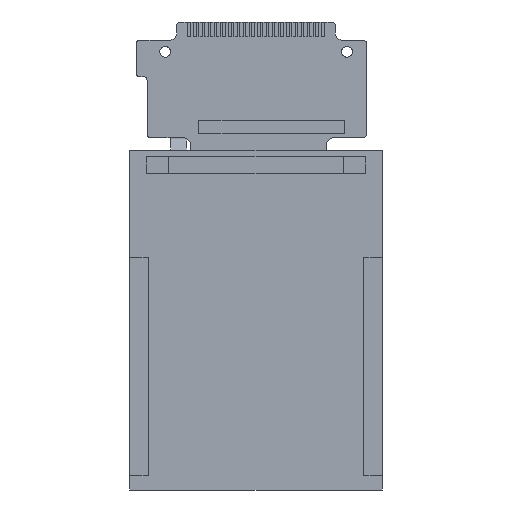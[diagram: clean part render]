
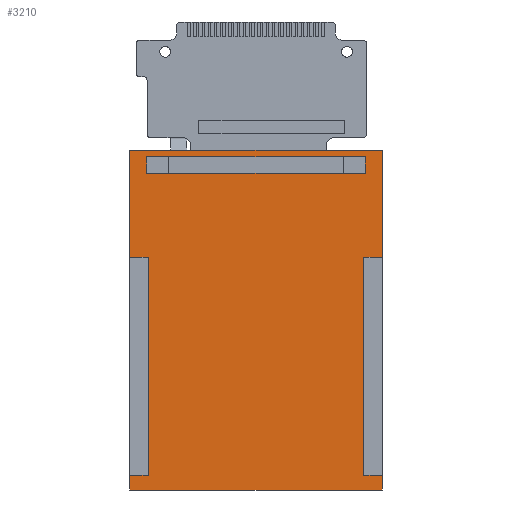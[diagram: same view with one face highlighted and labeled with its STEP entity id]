
A CAD part, front view. The second image highlights one B-rep face of the part: STEP entity #3210.
In plain terms, the highlighted planar face has unit normal (0, -1, 0).
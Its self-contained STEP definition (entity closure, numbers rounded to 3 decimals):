
#118 = CARTESIAN_POINT ( 'NONE',  ( 2.33, 0.004, -1.16 ) ) ;
#189 = VERTEX_POINT ( 'NONE', #6164 ) ;
#196 = ORIENTED_EDGE ( 'NONE', *, *, #10926, .T. ) ;
#221 = EDGE_CURVE ( 'NONE', #5218, #9421, #3654, .T. ) ;
#325 = CARTESIAN_POINT ( 'NONE',  ( 34.7, 0.004, -45.01 ) ) ;
#372 = ORIENTED_EDGE ( 'NONE', *, *, #9191, .F. ) ;
#414 = CARTESIAN_POINT ( 'NONE',  ( 34.7, 0.004, -47.01 ) ) ;
#440 = EDGE_LOOP ( 'NONE', ( #574, #6871, #5057, #3123, #196, #1449, #4499, #5184, #1272, #4087, #1174, #1010 ) ) ;
#571 = DIRECTION ( 'NONE',  ( 1., 0., 0. ) ) ;
#574 = ORIENTED_EDGE ( 'NONE', *, *, #6836, .F. ) ;
#637 = CARTESIAN_POINT ( 'NONE',  ( 2.5, 0.004, -15.01 ) ) ;
#700 = EDGE_CURVE ( 'NONE', #10422, #3099, #7664, .T. ) ;
#760 = VECTOR ( 'NONE', #8944, 1000. ) ;
#764 = VECTOR ( 'NONE', #11447, 1000. ) ;
#1010 = ORIENTED_EDGE ( 'NONE', *, *, #3661, .F. ) ;
#1017 = CARTESIAN_POINT ( 'NONE',  ( 0., 0.004, -45.01 ) ) ;
#1157 = VERTEX_POINT ( 'NONE', #10157 ) ;
#1174 = ORIENTED_EDGE ( 'NONE', *, *, #10230, .T. ) ;
#1200 = DIRECTION ( 'NONE',  ( -1., 0., 0. ) ) ;
#1272 = ORIENTED_EDGE ( 'NONE', *, *, #8451, .F. ) ;
#1449 = ORIENTED_EDGE ( 'NONE', *, *, #11008, .F. ) ;
#1526 = VECTOR ( 'NONE', #2194, 1000. ) ;
#1617 = CARTESIAN_POINT ( 'NONE',  ( 0., 0.004, -15.01 ) ) ;
#1678 = LINE ( 'NONE', #4454, #6094 ) ;
#1745 = VECTOR ( 'NONE', #2245, 1000. ) ;
#1781 = CARTESIAN_POINT ( 'NONE',  ( 34.7, 0.004, -15.01 ) ) ;
#1805 = VECTOR ( 'NONE', #8811, 1000. ) ;
#1999 = CARTESIAN_POINT ( 'NONE',  ( 32.37, 0.004, -1.16 ) ) ;
#2000 = LINE ( 'NONE', #7920, #1745 ) ;
#2004 = CARTESIAN_POINT ( 'NONE',  ( 0., 0.004, -47.01 ) ) ;
#2062 = LINE ( 'NONE', #414, #11460 ) ;
#2194 = DIRECTION ( 'NONE',  ( 0., 0., 1. ) ) ;
#2238 = LINE ( 'NONE', #8598, #4299 ) ;
#2245 = DIRECTION ( 'NONE',  ( -1., 0., 0. ) ) ;
#2497 = LINE ( 'NONE', #10182, #9256 ) ;
#2570 = DIRECTION ( 'NONE',  ( 1., 0., 0. ) ) ;
#3099 = VERTEX_POINT ( 'NONE', #8631 ) ;
#3123 = ORIENTED_EDGE ( 'NONE', *, *, #221, .F. ) ;
#3210 = ADVANCED_FACE ( 'NONE', ( #3649, #8349 ), #6788, .F. ) ;
#3240 = CARTESIAN_POINT ( 'NONE',  ( 0., 0.004, -0.26 ) ) ;
#3266 = CARTESIAN_POINT ( 'NONE',  ( 0., 0.004, -47.01 ) ) ;
#3339 = CARTESIAN_POINT ( 'NONE',  ( 2.5, 0.004, -45.01 ) ) ;
#3450 = CARTESIAN_POINT ( 'NONE',  ( 0., 0.004, -0.26 ) ) ;
#3606 = EDGE_CURVE ( 'NONE', #4065, #6443, #8836, .T. ) ;
#3621 = VECTOR ( 'NONE', #3653, 1000. ) ;
#3649 = FACE_OUTER_BOUND ( 'NONE', #440, .T. ) ;
#3653 = DIRECTION ( 'NONE',  ( -1., 0., 0. ) ) ;
#3654 = LINE ( 'NONE', #8819, #764 ) ;
#3661 = EDGE_CURVE ( 'NONE', #10498, #4871, #10891, .T. ) ;
#3666 = CARTESIAN_POINT ( 'NONE',  ( 32.37, 0.004, -3.46 ) ) ;
#3849 = CARTESIAN_POINT ( 'NONE',  ( 32.2, 0.004, -15.01 ) ) ;
#4065 = VERTEX_POINT ( 'NONE', #7415 ) ;
#4087 = ORIENTED_EDGE ( 'NONE', *, *, #8012, .F. ) ;
#4299 = VECTOR ( 'NONE', #4466, 1000. ) ;
#4368 = CARTESIAN_POINT ( 'NONE',  ( 2.5, 0.004, -45.01 ) ) ;
#4454 = CARTESIAN_POINT ( 'NONE',  ( 34.7, 0.004, -0.26 ) ) ;
#4455 = LINE ( 'NONE', #6207, #8607 ) ;
#4466 = DIRECTION ( 'NONE',  ( 1., 0., 0. ) ) ;
#4499 = ORIENTED_EDGE ( 'NONE', *, *, #7038, .F. ) ;
#4639 = VERTEX_POINT ( 'NONE', #11024 ) ;
#4871 = VERTEX_POINT ( 'NONE', #637 ) ;
#5057 = ORIENTED_EDGE ( 'NONE', *, *, #6749, .F. ) ;
#5139 = VECTOR ( 'NONE', #5289, 1000. ) ;
#5162 = EDGE_CURVE ( 'NONE', #6443, #5239, #10130, .T. ) ;
#5184 = ORIENTED_EDGE ( 'NONE', *, *, #6639, .F. ) ;
#5218 = VERTEX_POINT ( 'NONE', #9069 ) ;
#5239 = VERTEX_POINT ( 'NONE', #1999 ) ;
#5289 = DIRECTION ( 'NONE',  ( 0., 0., -1. ) ) ;
#5865 = CARTESIAN_POINT ( 'NONE',  ( 2.33, 0.004, -1.16 ) ) ;
#5949 = VECTOR ( 'NONE', #6237, 1000. ) ;
#6094 = VECTOR ( 'NONE', #7104, 1000. ) ;
#6164 = CARTESIAN_POINT ( 'NONE',  ( 32.2, 0.004, -45.01 ) ) ;
#6207 = CARTESIAN_POINT ( 'NONE',  ( 0., 0.004, -15.01 ) ) ;
#6222 = DIRECTION ( 'NONE',  ( 0., 0., 1. ) ) ;
#6237 = DIRECTION ( 'NONE',  ( 1., 0., 0. ) ) ;
#6273 = ORIENTED_EDGE ( 'NONE', *, *, #8647, .F. ) ;
#6443 = VERTEX_POINT ( 'NONE', #9950 ) ;
#6478 = LINE ( 'NONE', #1617, #10880 ) ;
#6639 = EDGE_CURVE ( 'NONE', #1157, #7427, #1678, .T. ) ;
#6749 = EDGE_CURVE ( 'NONE', #9421, #10422, #2062, .T. ) ;
#6788 = PLANE ( 'NONE',  #7725 ) ;
#6836 = EDGE_CURVE ( 'NONE', #3099, #10498, #8274, .T. ) ;
#6871 = ORIENTED_EDGE ( 'NONE', *, *, #700, .F. ) ;
#7038 = EDGE_CURVE ( 'NONE', #7427, #7174, #2000, .T. ) ;
#7104 = DIRECTION ( 'NONE',  ( 0., 0., -1. ) ) ;
#7174 = VERTEX_POINT ( 'NONE', #3849 ) ;
#7371 = VECTOR ( 'NONE', #6222, 1000. ) ;
#7415 = CARTESIAN_POINT ( 'NONE',  ( 2.33, 0.004, -3.46 ) ) ;
#7427 = VERTEX_POINT ( 'NONE', #1781 ) ;
#7664 = LINE ( 'NONE', #2004, #7371 ) ;
#7712 = VERTEX_POINT ( 'NONE', #3240 ) ;
#7725 = AXIS2_PLACEMENT_3D ( 'NONE', #3450, #7849, #2570 ) ;
#7849 = DIRECTION ( 'NONE',  ( 0., 1., 0. ) ) ;
#7895 = ORIENTED_EDGE ( 'NONE', *, *, #3606, .F. ) ;
#7920 = CARTESIAN_POINT ( 'NONE',  ( 34.7, 0.004, -15.01 ) ) ;
#8012 = EDGE_CURVE ( 'NONE', #4639, #7712, #4455, .T. ) ;
#8274 = LINE ( 'NONE', #1017, #5949 ) ;
#8349 = FACE_BOUND ( 'NONE', #10959, .T. ) ;
#8435 = DIRECTION ( 'NONE',  ( -1., 0., 0. ) ) ;
#8451 = EDGE_CURVE ( 'NONE', #7712, #1157, #2238, .T. ) ;
#8598 = CARTESIAN_POINT ( 'NONE',  ( 0., 0.004, -0.26 ) ) ;
#8607 = VECTOR ( 'NONE', #10505, 1000. ) ;
#8631 = CARTESIAN_POINT ( 'NONE',  ( 0., 0.004, -45.01 ) ) ;
#8647 = EDGE_CURVE ( 'NONE', #9322, #4065, #9792, .T. ) ;
#8811 = DIRECTION ( 'NONE',  ( 1., 0., 0. ) ) ;
#8819 = CARTESIAN_POINT ( 'NONE',  ( 34.7, 0.004, -45.01 ) ) ;
#8836 = LINE ( 'NONE', #10910, #1805 ) ;
#8944 = DIRECTION ( 'NONE',  ( 0., 0., 1. ) ) ;
#9069 = CARTESIAN_POINT ( 'NONE',  ( 34.7, 0.004, -45.01 ) ) ;
#9142 = LINE ( 'NONE', #10204, #3621 ) ;
#9191 = EDGE_CURVE ( 'NONE', #5239, #9322, #9142, .T. ) ;
#9237 = VECTOR ( 'NONE', #1200, 1000. ) ;
#9256 = VECTOR ( 'NONE', #11086, 1000. ) ;
#9322 = VERTEX_POINT ( 'NONE', #5865 ) ;
#9421 = VERTEX_POINT ( 'NONE', #9733 ) ;
#9522 = LINE ( 'NONE', #325, #9237 ) ;
#9733 = CARTESIAN_POINT ( 'NONE',  ( 34.7, 0.004, -47.01 ) ) ;
#9792 = LINE ( 'NONE', #118, #5139 ) ;
#9858 = ORIENTED_EDGE ( 'NONE', *, *, #5162, .F. ) ;
#9950 = CARTESIAN_POINT ( 'NONE',  ( 32.37, 0.004, -3.46 ) ) ;
#10130 = LINE ( 'NONE', #3666, #760 ) ;
#10157 = CARTESIAN_POINT ( 'NONE',  ( 34.7, 0.004, -0.26 ) ) ;
#10182 = CARTESIAN_POINT ( 'NONE',  ( 32.2, 0.004, -15.01 ) ) ;
#10204 = CARTESIAN_POINT ( 'NONE',  ( 32.37, 0.004, -1.16 ) ) ;
#10230 = EDGE_CURVE ( 'NONE', #4639, #4871, #6478, .T. ) ;
#10422 = VERTEX_POINT ( 'NONE', #3266 ) ;
#10498 = VERTEX_POINT ( 'NONE', #3339 ) ;
#10505 = DIRECTION ( 'NONE',  ( 0., 0., 1. ) ) ;
#10880 = VECTOR ( 'NONE', #571, 1000. ) ;
#10891 = LINE ( 'NONE', #4368, #1526 ) ;
#10910 = CARTESIAN_POINT ( 'NONE',  ( 2.33, 0.004, -3.46 ) ) ;
#10926 = EDGE_CURVE ( 'NONE', #5218, #189, #9522, .T. ) ;
#10959 = EDGE_LOOP ( 'NONE', ( #372, #9858, #7895, #6273 ) ) ;
#11008 = EDGE_CURVE ( 'NONE', #7174, #189, #2497, .T. ) ;
#11024 = CARTESIAN_POINT ( 'NONE',  ( 0., 0.004, -15.01 ) ) ;
#11086 = DIRECTION ( 'NONE',  ( 0., 0., -1. ) ) ;
#11447 = DIRECTION ( 'NONE',  ( 0., 0., -1. ) ) ;
#11460 = VECTOR ( 'NONE', #8435, 1000. ) ;
